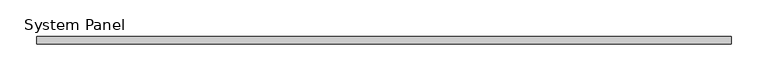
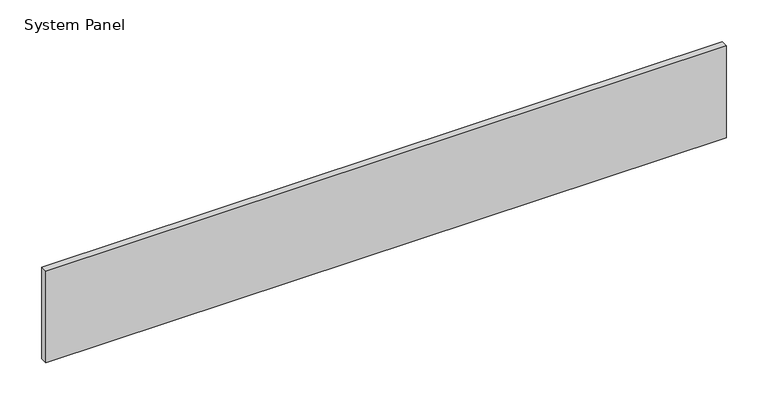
"""IFC4 building model written with IfcOpenShell, lengths in millimetres: plate geometry, System Panel : VACÍO."""

from ifc_helpers import new_model, si_unit, origin, origin_with_axes, place, context, project, spatial, polyline, outline, extrude, source, transform, mapped, element, save


def system_panel_d60c91ae(model_context):
    return source(origin(), model_context, "Body", "SweptSolid", [
        extrude(outline(polyline([(470.477915, -5.0), (-470.477915, -5.0), (-470.477915, 5.0), (470.477915, 5.0), (470.477915, -5.0)])), origin_with_axes(), (0.0, 0.0, 1.0), 134.0),
    ])


if __name__ == "__main__":
    model = new_model("IFC4")
    model_context = context("Model", 3, world=origin())
    ifc_project = project(units=[si_unit("LENGTHUNIT", "METRE", prefix="MILLI")], contexts=[model_context])
    site = spatial("IfcSite", under=ifc_project)
    building = spatial("IfcBuilding", under=site)
    placement = place(None, origin())
    system_panel_shape = system_panel_d60c91ae(model_context)
    element("IfcPlate", 1, ObjectType="System Panel : VACÍO", at=placement, inside=building, context=model_context, shape_type="MappedRepresentation", body=[
        mapped(system_panel_shape, transform((0.0, 0.0, 0.0), x_axis=(1.0, 0.0, 0.0), y_axis=(0.0, 1.0, 0.0), z_axis=(0.0, 0.0, 1.0))),
    ])
    save(model, "model.ifc")
